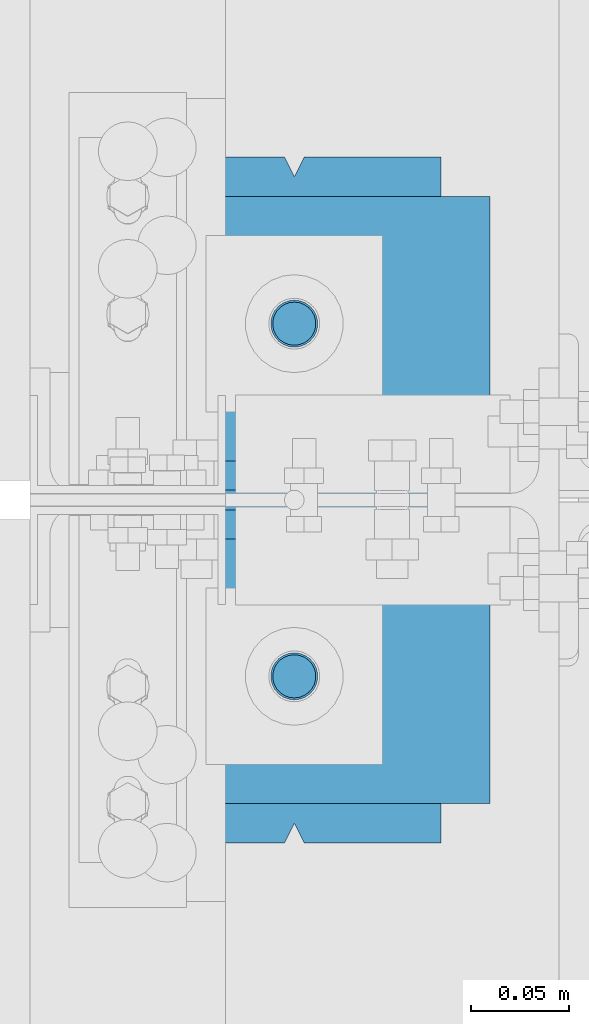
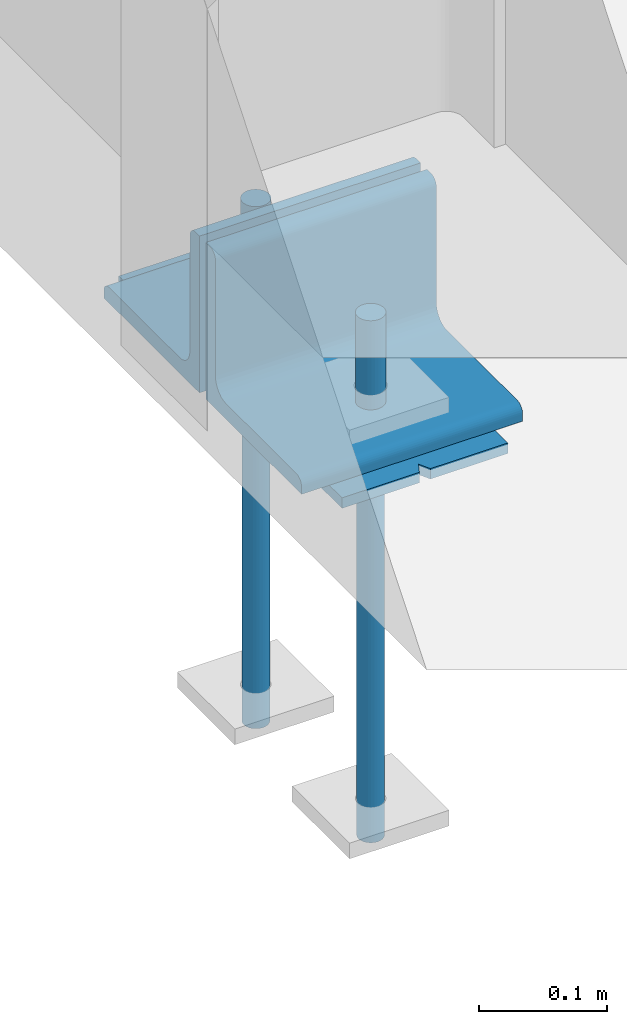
# One storey, part 73 of 362: 7 beams, 3 elements without a shape of their own.
"""IFC2X3 building model written with IfcOpenShell, lengths in millimetres."""

from ifc_helpers import new_model, si_unit, frame, origin_with_axes, origin_2d_with_axis, place, context, subcontext, project, spatial, polyline, rectangle, circle, l_section, outline, extrude, boolean, material, type_object, element, aggregate, save


model = new_model("IFC2X3")

# Units and contexts
model_context = context("Model", 3, precision=1e-05, world=origin_with_axes())
body_context = subcontext(model_context, "Body", "Model", "MODEL_VIEW")
ifc_project = project(units=[si_unit("LENGTHUNIT", "METRE", prefix="MILLI"), si_unit("AREAUNIT", "SQUARE_METRE"), si_unit("VOLUMEUNIT", "CUBIC_METRE"), si_unit("MASSUNIT", "GRAM", prefix="KILO"), si_unit("TIMEUNIT", "SECOND"), si_unit("PLANEANGLEUNIT", "RADIAN"), si_unit("SOLIDANGLEUNIT", "STERADIAN"), si_unit("THERMODYNAMICTEMPERATUREUNIT", "DEGREE_CELSIUS"), si_unit("LUMINOUSINTENSITYUNIT", "LUMEN")], contexts=[model_context])

# Site, building, storey
site_placement = place(None, origin_with_axes())
site = spatial("IfcSite", under=ifc_project, at=site_placement, Name="Undefined", CompositionType="ELEMENT")
building_placement = place(site_placement, origin_with_axes())
building = spatial("IfcBuilding", under=site, at=building_placement, Name="Undefined", CompositionType="ELEMENT")
storey_placement = place(building_placement, origin_with_axes())
storey = spatial("IfcBuildingStorey", under=building, at=storey_placement, Name="Undefined", CompositionType="ELEMENT", Elevation=0.0)

# Assembly, beams
assembly_1_placement = place(storey_placement, origin_with_axes())
assembly_1 = element("IfcElementAssembly", 1, at=assembly_1_placement, inside=storey, Name="PRESCELLEMENT PS24", AssemblyPlace="NOTDEFINED", PredefinedType="NOTDEFINED")
ifc_material = material(Name="Undefined/S235-E24")
beam_type_1 = type_object("IfcBeamType", Name="D24", PredefinedType="NOTDEFINED")
beam_1_placement = place(assembly_1_placement, frame((-45.0, 7509.99715044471, -100.0), z_axis=(-1.0, 0.0, 0.0), x_axis=(0.0, 0.0, -1.0)))
beam_1 = element("IfcBeam", 2, at=beam_1_placement, type_object=beam_type_1, material=ifc_material, Name="TIGE D'ANCRAGE", ObjectType="D24", context=body_context, shape_type="SweptSolid", body=[
    extrude(circle(Radius=12.0, at=origin_2d_with_axis()), frame((150.0, 0.0, 0.0), z_axis=(-1.0, 0.0, 0.0), x_axis=(0.0, -1.0, 0.0)), (0.0, 0.0, 1.0), 150.0),
])
beam_2_placement = place(assembly_1_placement, frame((-45.0, 7689.99715044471, -100.0), z_axis=(-1.0, 0.0, 0.0), x_axis=(0.0, 0.0, -1.0)))
beam_2 = element("IfcBeam", 3, at=beam_2_placement, type_object=beam_type_1, material=ifc_material, Name="TIGE D'ANCRAGE", ObjectType="D24", context=body_context, shape_type="SweptSolid", body=[
    extrude(circle(Radius=12.0, at=origin_2d_with_axis()), frame((150.0, 0.0, 0.0), z_axis=(-1.0, 0.0, 0.0), x_axis=(0.0, -1.0, 0.0)), (0.0, 0.0, 1.0), 150.0),
])
beam_type_2 = type_object("IfcBeamType", Name="D22", PredefinedType="NOTDEFINED")
beam_3_placement = place(assembly_1_placement, frame((-45.0, 7509.99715044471, -250.0), z_axis=(-1.0, 0.0, 0.0), x_axis=(0.0, 0.0, -1.0)))
beam_3 = element("IfcBeam", 4, at=beam_3_placement, type_object=beam_type_2, material=ifc_material, Name="TIGE D'ANCRAGE", ObjectType="D22", context=body_context, shape_type="SweptSolid", body=[
    extrude(circle(Radius=11.0, at=origin_2d_with_axis()), frame((350.0, 0.0, 0.0), z_axis=(-1.0, 0.0, 0.0), x_axis=(0.0, -1.0, 0.0)), (0.0, 0.0, 1.0), 350.0),
])
beam_4_placement = place(assembly_1_placement, frame((-45.0, 7689.99715044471, -250.0), z_axis=(-1.0, 0.0, 0.0), x_axis=(0.0, 0.0, -1.0)))
beam_4 = element("IfcBeam", 5, at=beam_4_placement, type_object=beam_type_2, material=ifc_material, Name="TIGE D'ANCRAGE", ObjectType="D22", context=body_context, shape_type="SweptSolid", body=[
    extrude(circle(Radius=11.0, at=origin_2d_with_axis()), frame((350.0, 0.0, 0.0), z_axis=(-1.0, 0.0, 0.0), x_axis=(0.0, -1.0, 0.0)), (0.0, 0.0, 1.0), 350.0),
])
beam_type_3 = type_object("IfcBeamType", Name="PL10*150", PredefinedType="NOTDEFINED")
beam_5_placement = place(assembly_1_placement, frame((-45.0, 7775.0, -205.0), z_axis=(1.0, 0.0, 0.0), x_axis=(0.0, -1.0, 0.0)))
beam_5 = element("IfcBeam", 6, at=beam_5_placement, type_object=beam_type_3, material=ifc_material, Name="PRESCELLEMENT PS24", ObjectType="PL10*150", context=body_context, shape_type="CSG", body=[
    boolean("DIFFERENCE", boolean("DIFFERENCE", boolean("DIFFERENCE", boolean("DIFFERENCE", extrude(rectangle(XDim=10.0, YDim=150.0, at=origin_2d_with_axis()), frame((350.0, 0.0, 0.0), z_axis=(-1.0, 0.0, 0.0), x_axis=(0.0, -1.0, 0.0)), (0.0, 0.0, 1.0), 350.0), extrude(outline(polyline([(0.0, 0.0), (11.1803398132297, 1.2732925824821e-11), (4.47213602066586, 8.94427204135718), (0.0, 0.0)])), frame((0.0, 7.5, -5.0), z_axis=(0.0, -1.0, 0.0), x_axis=(0.894427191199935, 0.0, 0.44721359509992)), (0.0, 0.0, 1.0), 15.0)), extrude(outline(polyline([(0.0, 0.0), (11.1803398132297, 1.2732925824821e-11), (4.47213602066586, 8.94427204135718), (0.0, 0.0)])), frame((180.0, 7.5, -75.0), z_axis=(0.0, -1.0, 0.0), x_axis=(-0.447213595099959, 0.0, 0.894427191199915)), (0.0, 0.0, 1.0), 15.0)), extrude(outline(polyline([(0.0, 0.0), (11.1803398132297, 1.2732925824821e-11), (6.70820379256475, 8.94427204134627), (0.0, 0.0)])), frame((340.0, 7.5, 0.0), z_axis=(0.0, -1.0, 0.0), x_axis=(0.894427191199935, 0.0, -0.44721359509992)), (0.0, 0.0, 1.0), 15.0)), extrude(outline(polyline([(0.0, 0.0), (11.1803398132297, 1.2732925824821e-11), (4.47213602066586, 8.94427204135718), (0.0, 0.0)])), frame((170.0, 7.5, 75.0), z_axis=(0.0, -1.0, 0.0), x_axis=(0.447213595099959, 0.0, -0.894427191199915)), (0.0, 0.0, 1.0), 15.0)),
])
aggregate(assembly_1, [beam_1, beam_3, beam_2, beam_4, beam_5])

# Assembly, beam
assembly_2_placement = place(storey_placement, origin_with_axes())
assembly_2 = element("IfcElementAssembly", 7, at=assembly_2_placement, inside=storey, AssemblyPlace="NOTDEFINED", PredefinedType="NOTDEFINED")
beam_type_4 = type_object("IfcBeamType", Name="L150*15", PredefinedType="NOTDEFINED")
beam_6_placement = place(assembly_2_placement, frame((55.0, 7680.0, -125.0), z_axis=(0.0, 0.0, 1.0), x_axis=(-1.0, 0.0, 0.0)))
beam_6 = element("IfcBeam", 8, at=beam_6_placement, type_object=beam_type_4, material=ifc_material, Name="ATTACHE", ObjectType="L150*15", context=body_context, shape_type="SweptSolid", body=[
    extrude(l_section(Depth=150.0, Width=150.0, Thickness=15.0, FilletRadius=16.0, EdgeRadius=8.0, at=origin_2d_with_axis()), frame((200.0, 0.0, 0.0), z_axis=(-1.0, 0.0, 0.0), x_axis=(0.0, -1.0, 0.0)), (0.0, 0.0, 1.0), 200.0),
])
aggregate(assembly_2, [beam_6])

assembly_3_placement = place(storey_placement, origin_with_axes())
assembly_3 = element("IfcElementAssembly", 9, at=assembly_3_placement, inside=storey, AssemblyPlace="NOTDEFINED", PredefinedType="NOTDEFINED")
beam_7_placement = place(assembly_3_placement, frame((-145.0, 7520.0, -125.0), z_axis=(0.0, 0.0, 1.0), x_axis=(1.0, 0.0, 0.0)))
beam_7 = element("IfcBeam", 10, at=beam_7_placement, type_object=beam_type_4, material=ifc_material, Name="ATTACHE", ObjectType="L150*15", context=body_context, shape_type="SweptSolid", body=[
    extrude(l_section(Depth=150.0, Width=150.0, Thickness=15.0, FilletRadius=16.0, EdgeRadius=8.0, at=origin_2d_with_axis()), frame((200.0, 0.0, 0.0), z_axis=(-1.0, 0.0, 0.0), x_axis=(0.0, -1.0, 0.0)), (0.0, 0.0, 1.0), 200.0),
])
aggregate(assembly_3, [beam_7])

save(model, "model.ifc")
